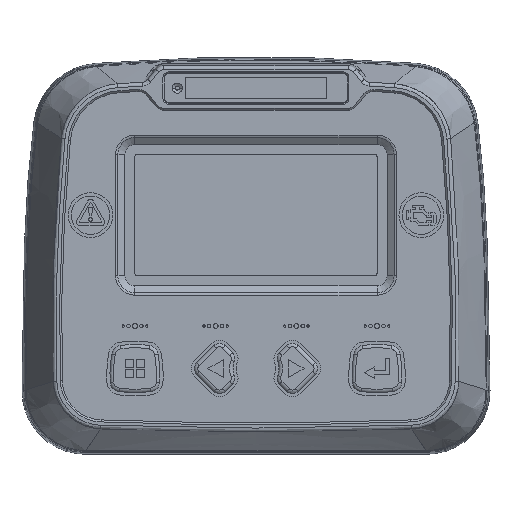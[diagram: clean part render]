
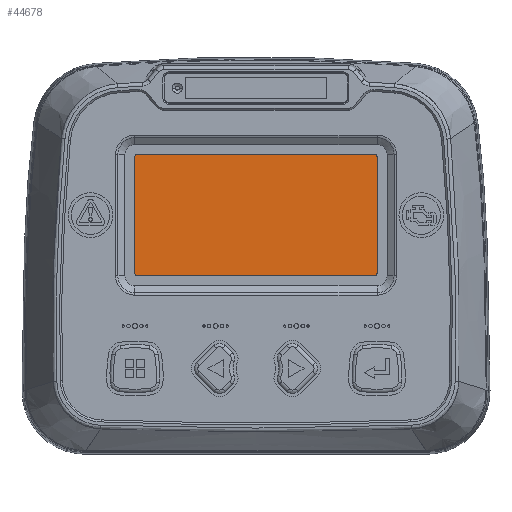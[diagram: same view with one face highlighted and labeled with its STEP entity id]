
A CAD part, top view. The second image highlights one B-rep face of the part: STEP entity #44678.
In plain terms, the highlighted planar face has unit normal (0, 0, 1).
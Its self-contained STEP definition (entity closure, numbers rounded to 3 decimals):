
#12496=CARTESIAN_POINT('',(-29.5,18.56,28.217));
#12497=DIRECTION('',(0.,0.,1.));
#12498=DIRECTION('',(0.,1.,0.));
#12499=AXIS2_PLACEMENT_3D('',#12496,#12497,#12498);
#12501=DIRECTION('',(1.,0.,0.));
#12502=VECTOR('',#12501,59.);
#12503=CARTESIAN_POINT('',(-29.5,19.06,28.217));
#12504=LINE('',#12503,#12502);
#12505=CARTESIAN_POINT('',(29.5,18.56,28.217));
#12506=DIRECTION('',(0.,0.,1.));
#12507=DIRECTION('',(1.,0.,0.));
#12508=AXIS2_PLACEMENT_3D('',#12505,#12506,#12507);
#12510=DIRECTION('',(0.,-1.,0.));
#12511=VECTOR('',#12510,29.);
#12512=CARTESIAN_POINT('',(30.,18.56,28.217));
#12513=LINE('',#12512,#12511);
#12514=CARTESIAN_POINT('',(29.5,-10.44,28.217));
#12515=DIRECTION('',(0.,0.,1.));
#12516=DIRECTION('',(0.,-1.,0.));
#12517=AXIS2_PLACEMENT_3D('',#12514,#12515,#12516);
#12519=DIRECTION('',(-1.,0.,0.));
#12520=VECTOR('',#12519,59.);
#12521=CARTESIAN_POINT('',(29.5,-10.94,28.217));
#12522=LINE('',#12521,#12520);
#12523=CARTESIAN_POINT('',(-29.5,-10.44,28.217));
#12524=DIRECTION('',(0.,0.,1.));
#12525=DIRECTION('',(-1.,0.,0.));
#12526=AXIS2_PLACEMENT_3D('',#12523,#12524,#12525);
#12528=DIRECTION('',(0.,1.,0.));
#12529=VECTOR('',#12528,29.);
#12530=CARTESIAN_POINT('',(-30.,-10.44,28.217));
#12531=LINE('',#12530,#12529);
#15407=CARTESIAN_POINT('',(-29.5,19.06,28.217));
#15408=CARTESIAN_POINT('',(-30.,18.56,28.217));
#15409=VERTEX_POINT('',#15407);
#15410=VERTEX_POINT('',#15408);
#15415=CARTESIAN_POINT('',(30.,18.56,28.217));
#15416=CARTESIAN_POINT('',(29.5,19.06,28.217));
#15417=VERTEX_POINT('',#15415);
#15418=VERTEX_POINT('',#15416);
#15423=CARTESIAN_POINT('',(29.5,-10.94,28.217));
#15424=CARTESIAN_POINT('',(30.,-10.44,28.217));
#15425=VERTEX_POINT('',#15423);
#15426=VERTEX_POINT('',#15424);
#15431=CARTESIAN_POINT('',(-30.,-10.44,28.217));
#15432=CARTESIAN_POINT('',(-29.5,-10.94,28.217));
#15433=VERTEX_POINT('',#15431);
#15434=VERTEX_POINT('',#15432);
#44657=CARTESIAN_POINT('',(0.,0.,28.217));
#44658=DIRECTION('',(0.,0.,1.));
#44659=DIRECTION('',(1.,0.,0.));
#44660=AXIS2_PLACEMENT_3D('',#44657,#44658,#44659);
#44661=PLANE('',#44660);
#44663=ORIENTED_EDGE('',*,*,#44662,.F.);
#44665=ORIENTED_EDGE('',*,*,#44664,.T.);
#44666=ORIENTED_EDGE('',*,*,#44648,.F.);
#44667=ORIENTED_EDGE('',*,*,#44638,.T.);
#44669=ORIENTED_EDGE('',*,*,#44668,.F.);
#44671=ORIENTED_EDGE('',*,*,#44670,.T.);
#44673=ORIENTED_EDGE('',*,*,#44672,.F.);
#44675=ORIENTED_EDGE('',*,*,#44674,.T.);
#44676=EDGE_LOOP('',(#44663,#44665,#44666,#44667,#44669,#44671,#44673,#44675));
#44677=FACE_OUTER_BOUND('',#44676,.F.);
#12500=CIRCLE('',#12499,0.5);
#12509=CIRCLE('',#12508,0.5);
#12518=CIRCLE('',#12517,0.5);
#12527=CIRCLE('',#12526,0.5);
#44638=EDGE_CURVE('',#15417,#15426,#12513,.T.);
#44648=EDGE_CURVE('',#15417,#15418,#12509,.T.);
#44662=EDGE_CURVE('',#15409,#15410,#12500,.T.);
#44664=EDGE_CURVE('',#15409,#15418,#12504,.T.);
#44668=EDGE_CURVE('',#15425,#15426,#12518,.T.);
#44670=EDGE_CURVE('',#15425,#15434,#12522,.T.);
#44672=EDGE_CURVE('',#15433,#15434,#12527,.T.);
#44674=EDGE_CURVE('',#15433,#15410,#12531,.T.);
#44678=ADVANCED_FACE('',(#44677),#44661,.T.);
